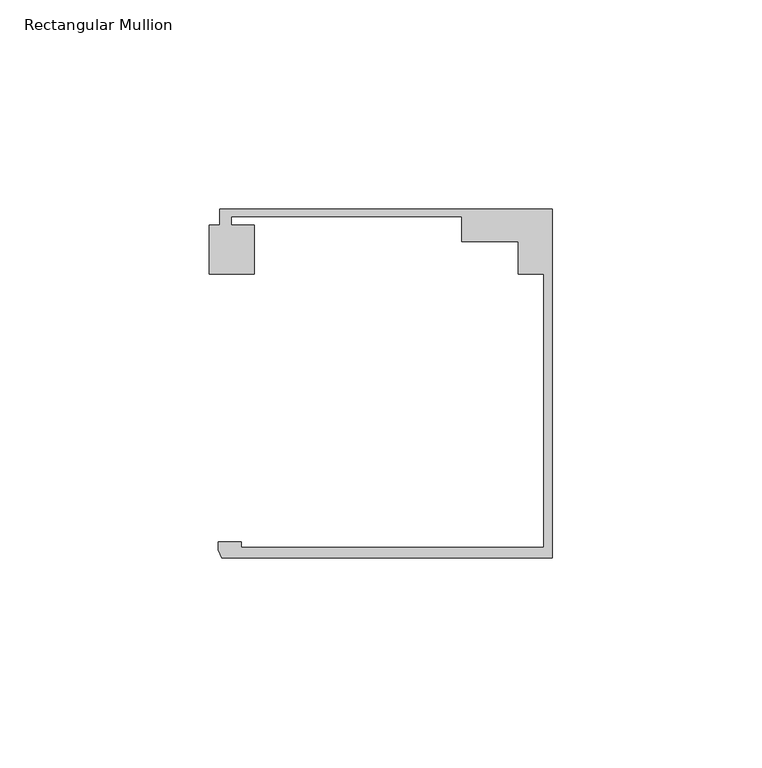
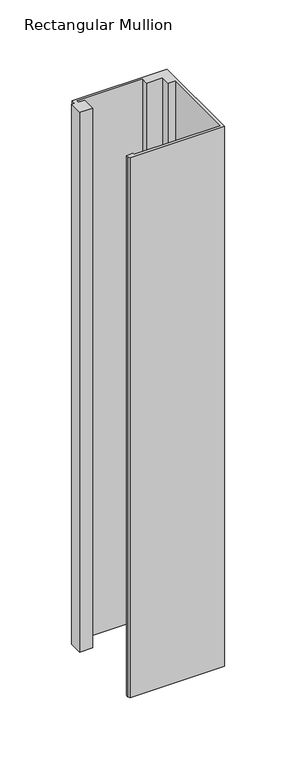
"""IFC4 building model written with IfcOpenShell, lengths in millimetres: member geometry, Rectangular Mullion : Danpal_Airpt_End-Mullion_B1."""

from ifc_helpers import new_model, si_unit, frame, origin, place, context, project, spatial, polyline, outline, extrude, source, transform, mapped, element, save


def rectangular_mullion_61dcb10f(model_context):
    return source(origin(), model_context, "Body", "SweptSolid", [
        extrude(outline(polyline([(-74.2474668, -74.9940824), (-2.0000001, -74.9940824), (-2.0000001, -9.7188964), (-8.1, -9.7188964), (-8.1, -1.8818054), (-21.5478166, -1.8818054), (-21.5478166, 4.0051512), (-76.6478166, 4.0051512), (-76.6478166, 2.0051513), (-71.1433532, 2.0051513), (-71.1433532, -9.6875514), (-81.8592324, -9.6875514), (-81.8592324, 2.0051513), (-79.3474874, 2.0051513), (-79.3474874, 5.8051514), (0.0, 5.8051514), (0.0, -77.4940825), (-78.8515009, -77.4940825), (-79.7784606, -75.5472671), (-79.7784606, -73.6940824), (-74.2474668, -73.6940824), (-74.2474668, -74.9940824)])), frame((0.0, 0.0, -476.2231211), z_axis=(0.0, 0.0, 1.0), x_axis=(1.0, 0.0, 0.0)), (0.0, 0.0, 1.0), 476.2231211),
    ])


if __name__ == "__main__":
    model = new_model("IFC4")
    model_context = context("Model", 3, world=origin())
    ifc_project = project(units=[si_unit("LENGTHUNIT", "METRE", prefix="MILLI")], contexts=[model_context])
    site = spatial("IfcSite", under=ifc_project)
    building = spatial("IfcBuilding", under=site)
    placement = place(None, origin())
    rectangular_mullion_shape = rectangular_mullion_61dcb10f(model_context)
    element("IfcMember", 1, ObjectType="Rectangular Mullion : Danpal_Airpt_End-Mullion_B1", at=placement, inside=building, context=model_context, shape_type="MappedRepresentation", body=[
        mapped(rectangular_mullion_shape, transform((0.0, 0.0, 0.0), x_axis=(1.0, 0.0, 0.0), y_axis=(0.0, 1.0, 0.0), z_axis=(0.0, 0.0, 1.0))),
    ])
    save(model, "model.ifc")
